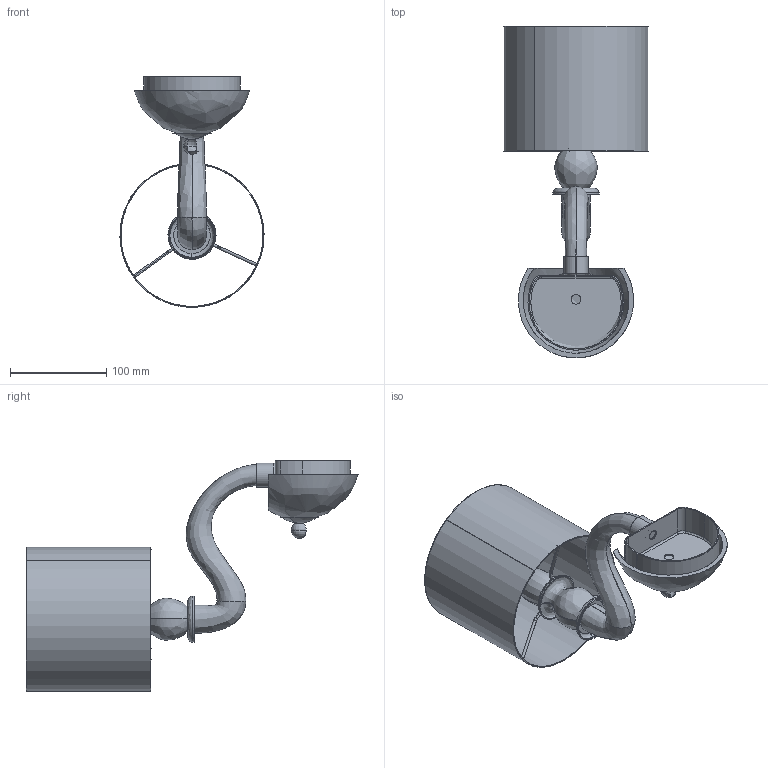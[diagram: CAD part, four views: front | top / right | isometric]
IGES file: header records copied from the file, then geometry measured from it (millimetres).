
Start section: SolidWorks IGES file using analytic representation for surfaces
Global section: file name: F:\GABRYSIA\MODELE 3D\NEWPORT-I-KINKIET-8157-WWW\NEWPORT-I-KINKIET-8157.IGS; native system: SolidWorks 2017; preprocessor: SolidWorks 2017; author: Togambi; date: 210202.111734; units: millimetre
Bounding box: 149.94 x 345.6 x 239.97 mm (x, y, z)
Surface area: 249427.9 mm2 (no closed solid volume)
Topology: 0 solids, 0 shells, 148 faces, 2849 edges, 2846 vertices
Faces by surface type: bspline 84, revolution 64
